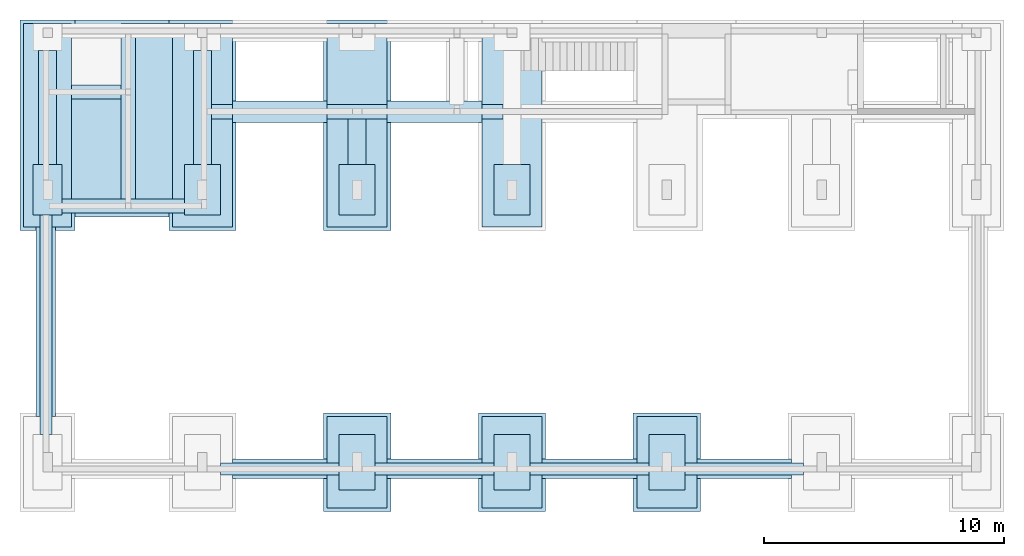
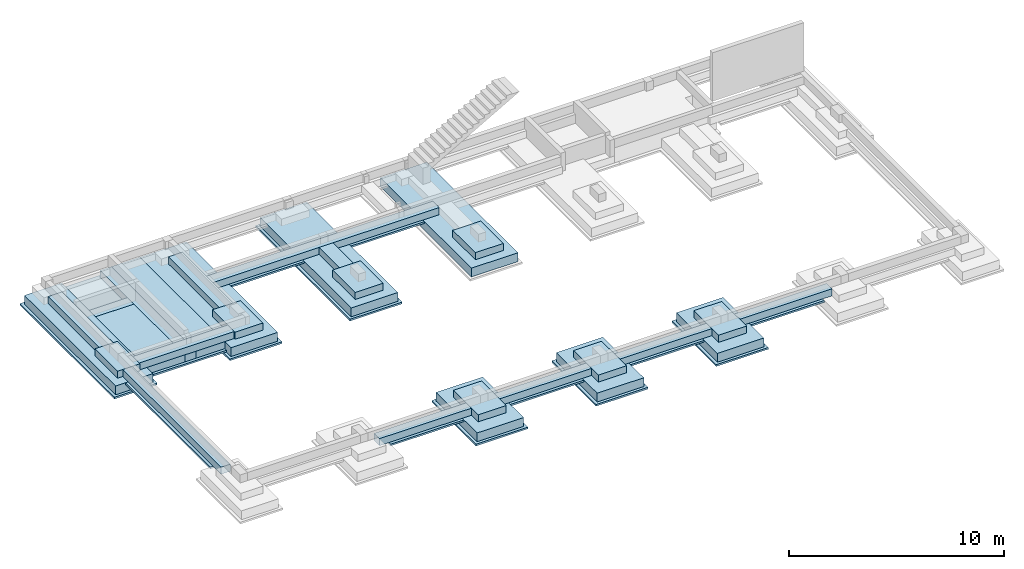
# One storey, part 2 of 6: 42 slabs.
"""IFC2X3 building model written with IfcOpenShell, lengths in centimetres."""

from ifc_helpers import new_model, entity, si_unit, converted_unit, derived_unit, direction, frame, frame_2d, origin, origin_2d_with_axis, place, context, subcontext, project, spatial, rectangle, extrude, material, layer, layer_set, layer_usage, type_object, element, save


model = new_model("IFC2X3")

# Units and contexts
model_context = context("Model", 3, precision=0.001, world=origin(), true_north=direction((6.12303176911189e-17, 1.0)))
body_context = subcontext(model_context, "Body", "Model", "MODEL_VIEW")
ifc_project = project(units=[si_unit("LENGTHUNIT", "METRE", prefix="CENTI"), si_unit("AREAUNIT", "SQUARE_METRE"), si_unit("VOLUMEUNIT", "CUBIC_METRE"), converted_unit("PLANEANGLEUNIT", "DEGREE", entity("IfcRatioMeasure", 0.0174532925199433), si_unit("PLANEANGLEUNIT", "RADIAN"), dimensions=[0, 0, 0, 0, 0, 0, 0]), si_unit("MASSUNIT", "GRAM", prefix="KILO"), derived_unit("MASSDENSITYUNIT", [(si_unit("MASSUNIT", "GRAM", prefix="KILO"), 1), (si_unit("LENGTHUNIT", "METRE"), -3)]), derived_unit("MOMENTOFINERTIAUNIT", [(si_unit("LENGTHUNIT", "METRE"), 4)]), si_unit("TIMEUNIT", "SECOND"), si_unit("FREQUENCYUNIT", "HERTZ"), si_unit("THERMODYNAMICTEMPERATUREUNIT", "DEGREE_CELSIUS"), derived_unit("THERMALTRANSMITTANCEUNIT", [(si_unit("MASSUNIT", "GRAM", prefix="KILO"), 1), (si_unit("THERMODYNAMICTEMPERATUREUNIT", "KELVIN"), -1), (si_unit("TIMEUNIT", "SECOND"), -3)]), derived_unit("VOLUMETRICFLOWRATEUNIT", [(si_unit("LENGTHUNIT", "METRE"), 3), (si_unit("TIMEUNIT", "SECOND"), -1)]), si_unit("ELECTRICCURRENTUNIT", "AMPERE"), si_unit("ELECTRICVOLTAGEUNIT", "VOLT"), si_unit("POWERUNIT", "WATT"), si_unit("FORCEUNIT", "NEWTON", prefix="KILO"), si_unit("ILLUMINANCEUNIT", "LUX"), si_unit("LUMINOUSFLUXUNIT", "LUMEN"), si_unit("LUMINOUSINTENSITYUNIT", "CANDELA"), derived_unit("USERDEFINED", [(si_unit("MASSUNIT", "GRAM", prefix="KILO"), -1), (si_unit("LENGTHUNIT", "METRE"), -2), (si_unit("TIMEUNIT", "SECOND"), 3), (si_unit("LUMINOUSFLUXUNIT", "LUMEN"), 1)]), derived_unit("LINEARVELOCITYUNIT", [(si_unit("LENGTHUNIT", "METRE"), 1), (si_unit("TIMEUNIT", "SECOND"), -1)]), si_unit("PRESSUREUNIT", "PASCAL"), derived_unit("USERDEFINED", [(si_unit("LENGTHUNIT", "METRE"), -2), (si_unit("MASSUNIT", "GRAM", prefix="KILO"), 1), (si_unit("TIMEUNIT", "SECOND"), -2)]), derived_unit("LINEARFORCEUNIT", [(si_unit("MASSUNIT", "GRAM", prefix="KILO"), 1), (si_unit("LENGTHUNIT", "METRE"), 1), (si_unit("TIMEUNIT", "SECOND"), -2), (si_unit("LENGTHUNIT", "METRE"), -1)]), derived_unit("PLANARFORCEUNIT", [(si_unit("MASSUNIT", "GRAM", prefix="KILO"), 1), (si_unit("LENGTHUNIT", "METRE"), 1), (si_unit("TIMEUNIT", "SECOND"), -2), (si_unit("LENGTHUNIT", "METRE"), -2)])], contexts=[model_context])

# Site, building, storey
site_placement = place(None, origin())
site = spatial("IfcSite", under=ifc_project, at=site_placement, Name="Default", CompositionType="ELEMENT")
building_placement = place(site_placement, origin())
building = spatial("IfcBuilding", under=site, at=building_placement, CompositionType="ELEMENT")
storey_placement = place(building_placement, frame((0.0, 0.0, -115.0)))
storey = spatial("IfcBuildingStorey", under=building, at=storey_placement, Name="Poziom Fundament -1,15", CompositionType="ELEMENT", Elevation=-115.0)

# Slabs
ifc_material_1 = material(Name="_Beton, C25/30")
ifc_layer_1 = layer(ifc_material_1, 50.0)
ifc_layer_set_1 = layer_set([ifc_layer_1], Name="Strop:SF 250 x 847,5 x 50")
ifc_layer_usage_1 = layer_usage(ifc_layer_set_1, "AXIS3", "POSITIVE", 0.0)
slab_type_1 = type_object("IfcSlabType", Name="Strop:SF 250 x 847,5 x 50", PredefinedType="FLOOR", material=ifc_layer_set_1)
slab_1_placement = place(storey_placement, origin())
element("IfcSlab", 1, at=slab_1_placement, inside=storey, type_object=slab_type_1, material=ifc_layer_usage_1, Name="Strop:SF 250 x 847,5 x 50", ObjectType="Strop:SF 250 x 847,5 x 50", PredefinedType="FLOOR", context=body_context, shape_type="SweptSolid", body=[
    extrude(rectangle(XDim=847.500000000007, YDim=250.00004770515, at=origin_2d_with_axis()), frame((-979.265085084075, 1698.8774502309, 0.0), z_axis=(0.0, 0.0, -1.0), x_axis=(0.0, 1.0, 0.0)), (0.0, 0.0, 1.0), 50.0),
])
ifc_layer_usage_2 = layer_usage(ifc_layer_set_1, "AXIS3", "POSITIVE", 0.0)
slab_type_2 = type_object("IfcSlabType", Name="Strop:SF 250 x 847,5 x 50", PredefinedType="FLOOR", material=ifc_layer_set_1)
slab_2_placement = place(storey_placement, origin())
element("IfcSlab", 2, at=slab_2_placement, inside=storey, type_object=slab_type_2, material=ifc_layer_usage_2, Name="Strop:SF 250 x 847,5 x 50", ObjectType="Strop:SF 250 x 847,5 x 50", PredefinedType="FLOOR", context=body_context, shape_type="SweptSolid", body=[
    extrude(rectangle(XDim=847.500000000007, YDim=250.00004770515, at=origin_2d_with_axis()), frame((-1624.26496505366, 1698.87745023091, 0.0), z_axis=(0.0, 0.0, -1.0), x_axis=(0.0, 1.0, 0.0)), (0.0, 0.0, 1.0), 50.0),
])
ifc_layer_usage_3 = layer_usage(ifc_layer_set_1, "AXIS3", "POSITIVE", 0.0)
slab_type_3 = type_object("IfcSlabType", Name="Strop:SF 250 x 847,5 x 50", PredefinedType="FLOOR", material=ifc_layer_set_1)
slab_3_placement = place(storey_placement, origin())
element("IfcSlab", 3, at=slab_3_placement, inside=storey, type_object=slab_type_3, material=ifc_layer_usage_3, Name="Strop:SF 250 x 847,5 x 50", ObjectType="Strop:SF 250 x 847,5 x 50", PredefinedType="FLOOR", context=body_context, shape_type="SweptSolid", body=[
    extrude(rectangle(XDim=847.500000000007, YDim=250.00004770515, at=origin_2d_with_axis()), frame((-2269.26508503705, 1698.87745023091, 0.0), z_axis=(0.0, 0.0, -1.0), x_axis=(0.0, 1.0, 0.0)), (0.0, 0.0, 1.0), 50.0),
])
ifc_layer_2 = layer(ifc_material_1, 50.0)
ifc_layer_set_2 = layer_set([ifc_layer_2], Name="Strop:SF 200 x 847,5 x 50 cm")
ifc_layer_usage_4 = layer_usage(ifc_layer_set_2, "AXIS3", "POSITIVE", 0.0)
slab_type_4 = type_object("IfcSlabType", Name="Strop:SF 200 x 847,5 x 50 cm", PredefinedType="FLOOR", material=ifc_layer_set_2)
slab_4_placement = place(storey_placement, origin())
element("IfcSlab", 4, at=slab_4_placement, inside=storey, type_object=slab_type_4, material=ifc_layer_usage_4, Name="Strop:SF 200 x 847,5 x 50 cm", ObjectType="Strop:SF 200 x 847,5 x 50 cm", PredefinedType="FLOOR", context=body_context, shape_type="SweptSolid", body=[
    extrude(rectangle(XDim=847.500000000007, YDim=199.999999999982, at=origin_2d_with_axis()), frame((-2914.2656506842, 1698.87745023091, 0.0), z_axis=(0.0, 0.0, -1.0), x_axis=(0.0, 1.0, 0.0)), (0.0, 0.0, 1.0), 50.0),
])
ifc_layer_3 = layer(ifc_material_1, 50.0)
ifc_layer_set_3 = layer_set([ifc_layer_3], Name="Strop:SF 250 x 380 x 50 cm")
ifc_layer_usage_5 = layer_usage(ifc_layer_set_3, "AXIS3", "POSITIVE", 0.0)
slab_type_5 = type_object("IfcSlabType", Name="Strop:SF 250 x 380 x 50 cm", PredefinedType="FLOOR", material=ifc_layer_set_3)
slab_5_placement = place(storey_placement, origin())
element("IfcSlab", 5, at=slab_5_placement, inside=storey, type_object=slab_type_5, material=ifc_layer_usage_5, Name="Strop:SF 250 x 380 x 50 cm", ObjectType="Strop:SF 250 x 380 x 50 cm", PredefinedType="FLOOR", context=body_context, shape_type="SweptSolid", body=[
    extrude(rectangle(XDim=380.000015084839, YDim=250.00004770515, at=origin_2d_with_axis()), frame((-334.264965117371, 295.127457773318, 0.0), z_axis=(0.0, 0.0, -1.0), x_axis=(0.0, 1.0, 0.0)), (0.0, 0.0, 1.0), 50.0),
])
ifc_layer_usage_6 = layer_usage(ifc_layer_set_3, "AXIS3", "POSITIVE", 0.0)
slab_type_6 = type_object("IfcSlabType", Name="Strop:SF 250 x 380 x 50 cm", PredefinedType="FLOOR", material=ifc_layer_set_3)
slab_6_placement = place(storey_placement, origin())
element("IfcSlab", 6, at=slab_6_placement, inside=storey, type_object=slab_type_6, material=ifc_layer_usage_6, Name="Strop:SF 250 x 380 x 50 cm", ObjectType="Strop:SF 250 x 380 x 50 cm", PredefinedType="FLOOR", context=body_context, shape_type="SweptSolid", body=[
    extrude(rectangle(XDim=380.000015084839, YDim=250.00004770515, at=origin_2d_with_axis()), frame((-979.264961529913, 295.12745777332, 0.0), z_axis=(0.0, 0.0, -1.0), x_axis=(0.0, 1.0, 0.0)), (0.0, 0.0, 1.0), 50.0),
])
ifc_layer_4 = layer(ifc_material_1, 40.0)
ifc_layer_set_4 = layer_set([ifc_layer_4], Name="Strop:SF 150 x 230 x 40 cm")
ifc_layer_usage_7 = layer_usage(ifc_layer_set_4, "AXIS3", "POSITIVE", 0.0)
slab_type_7 = type_object("IfcSlabType", Name="Strop:SF 150 x 230 x 40 cm", PredefinedType="FLOOR", material=ifc_layer_set_4)
slab_7_placement = place(storey_placement, origin())
element("IfcSlab", 7, at=slab_7_placement, inside=storey, type_object=slab_type_7, material=ifc_layer_usage_7, Name="Strop:SF 150 x 230 x 40 cm", ObjectType="Strop:SF 150 x 230 x 40 cm", PredefinedType="FLOOR", context=body_context, shape_type="SweptSolid", body=[
    extrude(rectangle(XDim=229.999999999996, YDim=150.000000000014, at=origin_2d_with_axis()), frame((-334.264988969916, 295.12743139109, 40.0), z_axis=(0.0, 0.0, -1.0), x_axis=(0.0, 1.0, 0.0)), (0.0, 0.0, 1.0), 40.0),
])
ifc_layer_usage_8 = layer_usage(ifc_layer_set_4, "AXIS3", "POSITIVE", 0.0)
slab_type_8 = type_object("IfcSlabType", Name="Strop:SF 150 x 230 x 40 cm", PredefinedType="FLOOR", material=ifc_layer_set_4)
slab_8_placement = place(storey_placement, origin())
element("IfcSlab", 8, at=slab_8_placement, inside=storey, type_object=slab_type_8, material=ifc_layer_usage_8, Name="Strop:SF 150 x 230 x 40 cm", ObjectType="Strop:SF 150 x 230 x 40 cm", PredefinedType="FLOOR", context=body_context, shape_type="SweptSolid", body=[
    extrude(rectangle(XDim=229.999999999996, YDim=150.000000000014, at=origin_2d_with_axis()), frame((-979.264985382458, 295.127431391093, 40.0), z_axis=(0.0, 0.0, -1.0), x_axis=(0.0, 1.0, 0.0)), (0.0, 0.0, 1.0), 40.0),
])
ifc_layer_usage_9 = layer_usage(ifc_layer_set_4, "AXIS3", "POSITIVE", 0.0)
slab_type_9 = type_object("IfcSlabType", Name="Strop:SF 150 x 230 x 40 cm", PredefinedType="FLOOR", material=ifc_layer_set_4)
slab_9_placement = place(storey_placement, origin())
element("IfcSlab", 9, at=slab_9_placement, inside=storey, type_object=slab_type_9, material=ifc_layer_usage_9, Name="Strop:SF 150 x 230 x 40 cm", ObjectType="Strop:SF 150 x 230 x 40 cm", PredefinedType="FLOOR", context=body_context, shape_type="SweptSolid", body=[
    extrude(rectangle(XDim=229.999999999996, YDim=150.000000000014, at=origin_2d_with_axis()), frame((-1624.26498896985, 295.127431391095, 40.0), z_axis=(0.0, 0.0, -1.0), x_axis=(0.0, 1.0, 0.0)), (0.0, 0.0, 1.0), 40.0),
])
ifc_layer_usage_10 = layer_usage(ifc_layer_set_3, "AXIS3", "POSITIVE", 0.0)
slab_type_10 = type_object("IfcSlabType", Name="Strop:SF 250 x 380 x 50 cm", PredefinedType="FLOOR", material=ifc_layer_set_3)
slab_10_placement = place(storey_placement, origin())
element("IfcSlab", 10, at=slab_10_placement, inside=storey, type_object=slab_type_10, material=ifc_layer_usage_10, Name="Strop:SF 250 x 380 x 50 cm", ObjectType="Strop:SF 250 x 380 x 50 cm", PredefinedType="FLOOR", context=body_context, shape_type="SweptSolid", body=[
    extrude(rectangle(XDim=380.000015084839, YDim=250.00004770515, at=origin_2d_with_axis()), frame((-1624.26496511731, 295.127457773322, 0.0), z_axis=(0.0, 0.0, -1.0), x_axis=(0.0, 1.0, 0.0)), (0.0, 0.0, 1.0), 50.0),
])
ifc_layer_5 = layer(ifc_material_1, 40.0)
ifc_layer_set_5 = layer_set([ifc_layer_5], Name="Strop:SF 150 x 210 x 40 cm")
ifc_layer_usage_11 = layer_usage(ifc_layer_set_5, "AXIS3", "POSITIVE", 0.0)
slab_type_11 = type_object("IfcSlabType", Name="Strop:SF 150 x 210 x 40 cm", PredefinedType="FLOOR", material=ifc_layer_set_5)
slab_11_placement = place(storey_placement, origin())
element("IfcSlab", 11, at=slab_11_placement, inside=storey, type_object=slab_type_11, material=ifc_layer_usage_11, Name="Strop:SF 150 x 210 x 40 cm", ObjectType="Strop:SF 150 x 210 x 40 cm", PredefinedType="FLOOR", context=body_context, shape_type="SweptSolid", body=[
    extrude(rectangle(XDim=209.999290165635, YDim=150.000000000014, at=origin_2d_with_axis()), frame((-1624.26498896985, 1430.12709542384, 40.0), z_axis=(0.0, 0.0, -1.0), x_axis=(0.0, 1.0, 0.0)), (0.0, 0.0, 1.0), 40.0),
])
ifc_layer_usage_12 = layer_usage(ifc_layer_set_5, "AXIS3", "POSITIVE", 0.0)
slab_type_12 = type_object("IfcSlabType", Name="Strop:SF 150 x 210 x 40 cm", PredefinedType="FLOOR", material=ifc_layer_set_5)
slab_12_placement = place(storey_placement, origin())
element("IfcSlab", 12, at=slab_12_placement, inside=storey, type_object=slab_type_12, material=ifc_layer_usage_12, Name="Strop:SF 150 x 210 x 40 cm", ObjectType="Strop:SF 150 x 210 x 40 cm", PredefinedType="FLOOR", context=body_context, shape_type="SweptSolid", body=[
    extrude(rectangle(XDim=209.999290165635, YDim=150.000000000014, at=origin_2d_with_axis()), frame((-979.264861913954, 1430.12709542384, 40.0), z_axis=(0.0, 0.0, -1.0), x_axis=(0.0, 1.0, 0.0)), (0.0, 0.0, 1.0), 40.0),
])
ifc_layer_usage_13 = layer_usage(ifc_layer_set_5, "AXIS3", "POSITIVE", 0.0)
slab_type_13 = type_object("IfcSlabType", Name="Strop:SF 150 x 210 x 40 cm", PredefinedType="FLOOR", material=ifc_layer_set_5)
slab_13_placement = place(storey_placement, origin())
element("IfcSlab", 13, at=slab_13_placement, inside=storey, type_object=slab_type_13, material=ifc_layer_usage_13, Name="Strop:SF 150 x 210 x 40 cm", ObjectType="Strop:SF 150 x 210 x 40 cm", PredefinedType="FLOOR", context=body_context, shape_type="SweptSolid", body=[
    extrude(rectangle(XDim=209.999290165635, YDim=150.000000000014, at=origin_2d_with_axis()), frame((-2269.26498896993, 1430.12709542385, 40.0), z_axis=(0.0, 0.0, -1.0), x_axis=(0.0, 1.0, 0.0)), (0.0, 0.0, 1.0), 40.0),
])
ifc_layer_6 = layer(ifc_material_1, 40.0)
ifc_layer_set_6 = layer_set([ifc_layer_6], Name="Strop:SF 120 x 210 x 40 cm")
ifc_layer_usage_14 = layer_usage(ifc_layer_set_6, "AXIS3", "POSITIVE", 0.0)
slab_type_14 = type_object("IfcSlabType", Name="Strop:SF 120 x 210 x 40 cm", PredefinedType="FLOOR", material=ifc_layer_set_6)
slab_14_placement = place(storey_placement, origin())
element("IfcSlab", 14, at=slab_14_placement, inside=storey, type_object=slab_type_14, material=ifc_layer_usage_14, Name="Strop:SF 120 x 210 x 40 cm", ObjectType="Strop:SF 120 x 210 x 40 cm", PredefinedType="FLOOR", context=body_context, shape_type="SweptSolid", body=[
    extrude(rectangle(XDim=209.999290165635, YDim=120.0, at=frame_2d((0.0, -2.16715534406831e-13), x_axis=(1.0, 0.0))), frame((-2914.26504440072, 1430.12709542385, 40.0), z_axis=(0.0, 0.0, -1.0), x_axis=(0.0, 1.0, 0.0)), (0.0, 0.0, 1.0), 40.0),
])
ifc_layer_7 = layer(ifc_material_1, 40.0)
ifc_layer_set_7 = layer_set([ifc_layer_7], Name="Strop:Ława fundamentowa gr. 40cm")
ifc_layer_usage_15 = layer_usage(ifc_layer_set_7, "AXIS3", "POSITIVE", 0.0)
slab_type_15 = type_object("IfcSlabType", Name="Strop:Ława fundamentowa gr. 40cm", PredefinedType="FLOOR", material=ifc_layer_set_7)
slab_15_placement = place(storey_placement, origin())
element("IfcSlab", 15, at=slab_15_placement, inside=storey, type_object=slab_type_15, material=ifc_layer_usage_15, Name="Strop:Ława fundamentowa gr. 40cm", ObjectType="Strop:Ława fundamentowa gr. 40cm", PredefinedType="FLOOR", context=body_context, shape_type="SweptSolid", body=[
    extrude(rectangle(XDim=60.0000206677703, YDim=1215.0, at=frame_2d((8.65085780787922e-13, 1.13686837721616e-13), x_axis=(1.0, 0.0))), frame((-1624.26510551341, 1755.62742309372, 40.0), z_axis=(0.0, 0.0, -1.0), x_axis=(0.0, 1.0, 0.0)), (0.0, 0.0, 1.0), 40.0),
])
ifc_layer_usage_16 = layer_usage(ifc_layer_set_7, "AXIS3", "POSITIVE", 0.0)
slab_type_16 = type_object("IfcSlabType", Name="Strop:Ława fundamentowa gr. 40cm", PredefinedType="FLOOR", material=ifc_layer_set_7)
slab_16_placement = place(storey_placement, origin())
element("IfcSlab", 16, at=slab_16_placement, inside=storey, type_object=slab_type_16, material=ifc_layer_usage_16, Name="Strop:Ława fundamentowa gr. 40cm", ObjectType="Strop:Ława fundamentowa gr. 40cm", PredefinedType="FLOOR", context=body_context, shape_type="SweptSolid", body=[
    extrude(rectangle(XDim=190.500690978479, YDim=75.0000000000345, at=frame_2d((-1.06581410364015e-13, 1.10134124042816e-13), x_axis=(1.0, 0.0))), frame((-1624.2651125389, 1630.3770859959, 40.0), z_axis=(0.0, 0.0, -1.0), x_axis=(0.0, 1.0, 0.0)), (0.0, 0.0, 1.0), 40.0),
])
ifc_layer_usage_17 = layer_usage(ifc_layer_set_7, "AXIS3", "POSITIVE", 0.0)
slab_type_17 = type_object("IfcSlabType", Name="Strop:Ława fundamentowa gr. 40cm", PredefinedType="FLOOR", material=ifc_layer_set_7)
slab_17_placement = place(storey_placement, origin())
element("IfcSlab", 17, at=slab_17_placement, inside=storey, type_object=slab_type_17, material=ifc_layer_usage_17, Name="Strop:Ława fundamentowa gr. 40cm", ObjectType="Strop:Ława fundamentowa gr. 40cm", PredefinedType="FLOOR", context=body_context, shape_type="SweptSolid", body=[
    extrude(rectangle(XDim=475.000691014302, YDim=74.9999999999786, at=frame_2d((2.1316282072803e-13, 2.16715534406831e-13), x_axis=(1.0, 0.0))), frame((-2269.26510895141, 1772.62708601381, 40.0), z_axis=(0.0, 0.0, -1.0), x_axis=(0.0, 1.0, 0.0)), (0.0, 0.0, 1.0), 40.0),
])
ifc_layer_usage_18 = layer_usage(ifc_layer_set_7, "AXIS3", "POSITIVE", 0.0)
slab_type_18 = type_object("IfcSlabType", Name="Strop:Ława fundamentowa gr. 40cm", PredefinedType="FLOOR", material=ifc_layer_set_7)
slab_18_placement = place(storey_placement, origin())
element("IfcSlab", 18, at=slab_18_placement, inside=storey, type_object=slab_type_18, material=ifc_layer_usage_18, Name="Strop:Ława fundamentowa gr. 40cm", ObjectType="Strop:Ława fundamentowa gr. 40cm", PredefinedType="FLOOR", context=body_context, shape_type="SweptSolid", body=[
    extrude(rectangle(XDim=915.000018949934, YDim=50.0000000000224, at=origin_2d_with_axis()), frame((-2921.76498789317, 867.627440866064, 40.0), z_axis=(0.0, 0.0, -1.0), x_axis=(0.0, 1.0, 0.0)), (0.0, 0.0, 1.0), 40.0),
])
ifc_layer_usage_19 = layer_usage(ifc_layer_set_7, "AXIS3", "POSITIVE", 0.0)
slab_type_19 = type_object("IfcSlabType", Name="Strop:Ława fundamentowa gr. 40cm", PredefinedType="FLOOR", material=ifc_layer_set_7)
slab_19_placement = place(storey_placement, origin())
element("IfcSlab", 19, at=slab_19_placement, inside=storey, type_object=slab_type_19, material=ifc_layer_usage_19, Name="Strop:Ława fundamentowa gr. 40cm", ObjectType="Strop:Ława fundamentowa gr. 40cm", PredefinedType="FLOOR", context=body_context, shape_type="SweptSolid", body=[
    extrude(rectangle(XDim=50.0000000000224, YDim=495.000000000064, at=frame_2d((1.24344978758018e-14, 0.0), x_axis=(1.0, 0.0))), frame((-1946.76498896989, 267.627452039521, 40.0), z_axis=(0.0, 0.0, -1.0), x_axis=(0.0, 1.0, 0.0)), (0.0, 0.0, 1.0), 40.0),
])
ifc_layer_usage_20 = layer_usage(ifc_layer_set_7, "AXIS3", "POSITIVE", 0.0)
slab_type_20 = type_object("IfcSlabType", Name="Strop:Ława fundamentowa gr. 40cm", PredefinedType="FLOOR", material=ifc_layer_set_7)
slab_20_placement = place(storey_placement, origin())
element("IfcSlab", 20, at=slab_20_placement, inside=storey, type_object=slab_type_20, material=ifc_layer_usage_20, Name="Strop:Ława fundamentowa gr. 40cm", ObjectType="Strop:Ława fundamentowa gr. 40cm", PredefinedType="FLOOR", context=body_context, shape_type="SweptSolid", body=[
    extrude(rectangle(XDim=50.0000000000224, YDim=495.000000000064, at=frame_2d((1.24344978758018e-14, 0.0), x_axis=(1.0, 0.0))), frame((-1301.76498896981, 267.627452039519, 40.0), z_axis=(0.0, 0.0, -1.0), x_axis=(0.0, 1.0, 0.0)), (0.0, 0.0, 1.0), 40.0),
])
ifc_layer_usage_21 = layer_usage(ifc_layer_set_7, "AXIS3", "POSITIVE", 0.0)
slab_type_21 = type_object("IfcSlabType", Name="Strop:Ława fundamentowa gr. 40cm", PredefinedType="FLOOR", material=ifc_layer_set_7)
slab_21_placement = place(storey_placement, origin())
element("IfcSlab", 21, at=slab_21_placement, inside=storey, type_object=slab_type_21, material=ifc_layer_usage_21, Name="Strop:Ława fundamentowa gr. 40cm", ObjectType="Strop:Ława fundamentowa gr. 40cm", PredefinedType="FLOOR", context=body_context, shape_type="SweptSolid", body=[
    extrude(rectangle(XDim=50.0000000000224, YDim=495.000000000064, at=frame_2d((1.24344978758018e-14, -5.6843418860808e-14), x_axis=(1.0, 0.0))), frame((-656.764985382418, 267.627452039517, 40.0), z_axis=(0.0, 0.0, -1.0), x_axis=(0.0, 1.0, 0.0)), (0.0, 0.0, 1.0), 40.0),
])
ifc_layer_usage_22 = layer_usage(ifc_layer_set_7, "AXIS3", "POSITIVE", 0.0)
slab_type_22 = type_object("IfcSlabType", Name="Strop:Ława fundamentowa gr. 40cm", PredefinedType="FLOOR", material=ifc_layer_set_7)
slab_22_placement = place(storey_placement, origin())
element("IfcSlab", 22, at=slab_22_placement, inside=storey, type_object=slab_type_22, material=ifc_layer_usage_22, Name="Strop:Ława fundamentowa gr. 40cm", ObjectType="Strop:Ława fundamentowa gr. 40cm", PredefinedType="FLOOR", context=body_context, shape_type="SweptSolid", body=[
    extrude(rectangle(XDim=50.0000000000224, YDim=495.000000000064, at=frame_2d((1.4210854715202e-14, 0.0), x_axis=(1.0, 0.0))), frame((-11.7649889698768, 267.627452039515, 40.0), z_axis=(0.0, 0.0, -1.0), x_axis=(0.0, 1.0, 0.0)), (0.0, 0.0, 1.0), 40.0),
])
ifc_layer_usage_23 = layer_usage(ifc_layer_set_7, "AXIS3", "POSITIVE", 0.0)
slab_type_23 = type_object("IfcSlabType", Name="Strop:Ława fundamentowa gr. 40cm", PredefinedType="FLOOR", material=ifc_layer_set_7)
slab_23_placement = place(storey_placement, origin())
element("IfcSlab", 23, at=slab_23_placement, inside=storey, type_object=slab_type_23, material=ifc_layer_usage_23, Name="Strop:Ława fundamentowa gr. 40cm", ObjectType="Strop:Ława fundamentowa gr. 40cm", PredefinedType="FLOOR", context=body_context, shape_type="SweptSolid", body=[
    extrude(rectangle(XDim=59.9999998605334, YDim=510.000055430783, at=origin_2d_with_axis()), frame((-2599.26501668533, 1362.52745213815, 40.0), z_axis=(0.0, 0.0, -1.0), x_axis=(0.0, 1.0, 0.0)), (0.0, 0.0, 1.0), 40.0),
])
ifc_layer_usage_24 = layer_usage(ifc_layer_set_7, "AXIS3", "POSITIVE", 0.0)
slab_type_24 = type_object("IfcSlabType", Name="Strop:Ława fundamentowa gr. 40cm", PredefinedType="FLOOR", material=ifc_layer_set_7)
slab_24_placement = place(storey_placement, origin())
element("IfcSlab", 24, at=slab_24_placement, inside=storey, type_object=slab_type_24, material=ifc_layer_usage_24, Name="Strop:Ława fundamentowa gr. 40cm", ObjectType="Strop:Ława fundamentowa gr. 40cm", PredefinedType="FLOOR", context=body_context, shape_type="SweptSolid", body=[
    extrude(rectangle(XDim=790.09999802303, YDim=59.9999998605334, at=frame_2d((1.98951966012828e-13, 2.16715534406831e-13), x_axis=(1.0, 0.0))), frame((-2578.26510769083, 1727.5774512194, 0.0), z_axis=(0.0, 0.0, -1.0), x_axis=(0.0, 1.0, 0.0)), (0.0, 0.0, 1.0), 40.0),
])
ifc_layer_usage_25 = layer_usage(ifc_layer_set_7, "AXIS3", "POSITIVE", 0.0)
slab_type_25 = type_object("IfcSlabType", Name="Strop:Ława fundamentowa gr. 40cm", PredefinedType="FLOOR", material=ifc_layer_set_7)
slab_25_placement = place(storey_placement, origin())
element("IfcSlab", 25, at=slab_25_placement, inside=storey, type_object=slab_type_25, material=ifc_layer_usage_25, Name="Strop:Ława fundamentowa gr. 40cm", ObjectType="Strop:Ława fundamentowa gr. 40cm", PredefinedType="FLOOR", context=body_context, shape_type="SweptSolid", body=[
    extrude(rectangle(XDim=59.9999998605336, YDim=206.00054296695, at=frame_2d((1.08357767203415e-13, 2.20268248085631e-13), x_axis=(1.0, 0.0))), frame((-2711.26537920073, 1837.52745214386, 0.0), z_axis=(0.0, 0.0, -1.0), x_axis=(0.0, 1.0, 0.0)), (0.0, 0.0, 1.0), 40.0),
])
ifc_layer_usage_26 = layer_usage(ifc_layer_set_7, "AXIS3", "POSITIVE", 0.0)
slab_type_26 = type_object("IfcSlabType", Name="Strop:Ława fundamentowa gr. 40cm", PredefinedType="FLOOR", material=ifc_layer_set_7)
slab_26_placement = place(storey_placement, origin())
element("IfcSlab", 26, at=slab_26_placement, inside=storey, type_object=slab_type_26, material=ifc_layer_usage_26, Name="Strop:Ława fundamentowa gr. 40cm", ObjectType="Strop:Ława fundamentowa gr. 40cm", PredefinedType="FLOOR", context=body_context, shape_type="SweptSolid", body=[
    extrude(rectangle(XDim=475.000691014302, YDim=74.9987288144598, at=frame_2d((2.27373675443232e-13, 0.0), x_axis=(1.0, 0.0))), frame((-2914.26562137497, 1772.62708601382, 40.0), z_axis=(0.0, 0.0, -1.0), x_axis=(0.0, 1.0, 0.0)), (0.0, 0.0, 1.0), 40.0),
])
ifc_material_2 = material(Name="Beton zacierany")
ifc_layer_8 = layer(ifc_material_2, 10.0)
ifc_layer_set_8 = layer_set([ifc_layer_8], Name="Strop:Chudy beton gr. 10cm")
ifc_layer_usage_27 = layer_usage(ifc_layer_set_8, "AXIS3", "POSITIVE", 0.0)
slab_type_27 = type_object("IfcSlabType", Name="Strop:Chudy beton gr. 10cm", PredefinedType="FLOOR", material=ifc_layer_set_8)
slab_27_placement = place(storey_placement, origin())
element("IfcSlab", 27, at=slab_27_placement, inside=storey, type_object=slab_type_27, material=ifc_layer_usage_27, Name="Strop:Chudy beton gr. 10cm", ObjectType="Strop:Chudy beton gr. 10cm", PredefinedType="FLOOR", context=body_context, shape_type="SweptSolid", body=[
    extrude(rectangle(XDim=410.000015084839, YDim=280.00004770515, at=frame_2d((2.8421709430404e-14, 0.0), x_axis=(1.0, 0.0))), frame((-1624.26496511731, 295.127457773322, -50.0), z_axis=(0.0, 0.0, -1.0), x_axis=(0.0, 1.0, 0.0)), (0.0, 0.0, 1.0), 10.0),
])
ifc_layer_usage_28 = layer_usage(ifc_layer_set_8, "AXIS3", "POSITIVE", 0.0)
slab_type_28 = type_object("IfcSlabType", Name="Strop:Chudy beton gr. 10cm", PredefinedType="FLOOR", material=ifc_layer_set_8)
slab_28_placement = place(storey_placement, origin())
element("IfcSlab", 28, at=slab_28_placement, inside=storey, type_object=slab_type_28, material=ifc_layer_usage_28, Name="Strop:Chudy beton gr. 10cm", ObjectType="Strop:Chudy beton gr. 10cm", PredefinedType="FLOOR", context=body_context, shape_type="SweptSolid", body=[
    extrude(rectangle(XDim=410.000015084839, YDim=280.00004770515, at=frame_2d((2.8421709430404e-14, 0.0), x_axis=(1.0, 0.0))), frame((-979.264961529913, 295.12745777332, -50.0), z_axis=(0.0, 0.0, -1.0), x_axis=(0.0, 1.0, 0.0)), (0.0, 0.0, 1.0), 10.0),
])
ifc_layer_usage_29 = layer_usage(ifc_layer_set_8, "AXIS3", "POSITIVE", 0.0)
slab_type_29 = type_object("IfcSlabType", Name="Strop:Chudy beton gr. 10cm", PredefinedType="FLOOR", material=ifc_layer_set_8)
slab_29_placement = place(storey_placement, origin())
element("IfcSlab", 29, at=slab_29_placement, inside=storey, type_object=slab_type_29, material=ifc_layer_usage_29, Name="Strop:Chudy beton gr. 10cm", ObjectType="Strop:Chudy beton gr. 10cm", PredefinedType="FLOOR", context=body_context, shape_type="SweptSolid", body=[
    extrude(rectangle(XDim=410.000015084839, YDim=280.00004770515, at=frame_2d((2.8421709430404e-14, 0.0), x_axis=(1.0, 0.0))), frame((-334.264965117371, 295.127457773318, -50.0), z_axis=(0.0, 0.0, -1.0), x_axis=(0.0, 1.0, 0.0)), (0.0, 0.0, 1.0), 10.0),
])
ifc_layer_usage_30 = layer_usage(ifc_layer_set_8, "AXIS3", "POSITIVE", 0.0)
slab_type_30 = type_object("IfcSlabType", Name="Strop:Chudy beton gr. 10cm", PredefinedType="FLOOR", material=ifc_layer_set_8)
slab_30_placement = place(storey_placement, origin())
element("IfcSlab", 30, at=slab_30_placement, inside=storey, type_object=slab_type_30, material=ifc_layer_usage_30, Name="Strop:Chudy beton gr. 10cm", ObjectType="Strop:Chudy beton gr. 10cm", PredefinedType="FLOOR", context=body_context, shape_type="SweptSolid", body=[
    extrude(rectangle(XDim=877.499999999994, YDim=229.999999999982, at=frame_2d((2.27373675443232e-13, 0.0), x_axis=(1.0, 0.0))), frame((-2914.2656506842, 1698.8774502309, -50.0), z_axis=(0.0, 0.0, -1.0), x_axis=(0.0, 1.0, 0.0)), (0.0, 0.0, 1.0), 10.0),
])
ifc_layer_usage_31 = layer_usage(ifc_layer_set_8, "AXIS3", "POSITIVE", 0.0)
slab_type_31 = type_object("IfcSlabType", Name="Strop:Chudy beton gr. 10cm", PredefinedType="FLOOR", material=ifc_layer_set_8)
slab_31_placement = place(storey_placement, origin())
element("IfcSlab", 31, at=slab_31_placement, inside=storey, type_object=slab_type_31, material=ifc_layer_usage_31, Name="Strop:Chudy beton gr. 10cm", ObjectType="Strop:Chudy beton gr. 10cm", PredefinedType="FLOOR", context=body_context, shape_type="SweptSolid", body=[
    extrude(rectangle(XDim=877.500000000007, YDim=280.00004770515, at=origin_2d_with_axis()), frame((-2269.26508503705, 1698.87745023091, -50.0), z_axis=(0.0, 0.0, -1.0), x_axis=(0.0, 1.0, 0.0)), (0.0, 0.0, 1.0), 10.0),
])
ifc_layer_usage_32 = layer_usage(ifc_layer_set_8, "AXIS3", "POSITIVE", 0.0)
slab_type_32 = type_object("IfcSlabType", Name="Strop:Chudy beton gr. 10cm", PredefinedType="FLOOR", material=ifc_layer_set_8)
slab_32_placement = place(storey_placement, origin())
element("IfcSlab", 32, at=slab_32_placement, inside=storey, type_object=slab_type_32, material=ifc_layer_usage_32, Name="Strop:Chudy beton gr. 10cm", ObjectType="Strop:Chudy beton gr. 10cm", PredefinedType="FLOOR", context=body_context, shape_type="SweptSolid", body=[
    extrude(rectangle(XDim=877.500000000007, YDim=280.00004770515, at=origin_2d_with_axis()), frame((-1624.26496505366, 1698.87745023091, -50.0), z_axis=(0.0, 0.0, -1.0), x_axis=(0.0, 1.0, 0.0)), (0.0, 0.0, 1.0), 10.0),
])
ifc_layer_9 = layer(ifc_material_1, 40.0)
ifc_layer_set_9 = layer_set([ifc_layer_9], Name="Strop:Płyta fundamentowa gr. 40cm")
ifc_layer_usage_33 = layer_usage(ifc_layer_set_9, "AXIS3", "POSITIVE", 0.0)
slab_type_33 = type_object("IfcSlabType", Name="Strop:Płyta fundamentowa gr. 40cm", PredefinedType="FLOOR", material=ifc_layer_set_9)
slab_33_placement = place(storey_placement, origin())
element("IfcSlab", 33, at=slab_33_placement, inside=storey, type_object=slab_type_33, material=ifc_layer_usage_33, Name="Strop:Płyta fundamentowa gr. 40cm", ObjectType="Strop:Płyta fundamentowa gr. 40cm", PredefinedType="FLOOR", context=body_context, shape_type="SweptSolid", body=[
    extrude(rectangle(XDim=475.000000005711, YDim=206.000543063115, at=frame_2d((-2.1316282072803e-13, 2.1316282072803e-13), x_axis=(1.0, 0.0))), frame((-2711.26537915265, 1570.02745221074, 0.0), z_axis=(0.0, 0.0, -1.0), x_axis=(0.0, 1.0, 0.0)), (0.0, 0.0, 1.0), 40.0),
])
ifc_layer_usage_34 = layer_usage(ifc_layer_set_9, "AXIS3", "POSITIVE", 0.0)
slab_type_34 = type_object("IfcSlabType", Name="Strop:Płyta fundamentowa gr. 40cm", PredefinedType="FLOOR", material=ifc_layer_set_9)
slab_34_placement = place(storey_placement, origin())
element("IfcSlab", 34, at=slab_34_placement, inside=storey, type_object=slab_type_34, material=ifc_layer_usage_34, Name="Strop:Płyta fundamentowa gr. 40cm", ObjectType="Strop:Płyta fundamentowa gr. 40cm", PredefinedType="FLOOR", context=body_context, shape_type="SweptSolid", body=[
    extrude(rectangle(XDim=790.099998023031, YDim=153.999998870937, at=origin_2d_with_axis()), frame((-2471.26510832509, 1727.5774512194, 0.0), z_axis=(0.0, 0.0, -1.0), x_axis=(0.0, 1.0, 0.0)), (0.0, 0.0, 1.0), 40.0),
])
ifc_layer_usage_35 = layer_usage(ifc_layer_set_8, "AXIS3", "POSITIVE", 0.0)
slab_type_35 = type_object("IfcSlabType", Name="Strop:Chudy beton gr. 10cm", PredefinedType="FLOOR", material=ifc_layer_set_8)
slab_35_placement = place(storey_placement, origin())
element("IfcSlab", 35, at=slab_35_placement, inside=storey, type_object=slab_type_35, material=ifc_layer_usage_35, Name="Strop:Chudy beton gr. 10cm", ObjectType="Strop:Chudy beton gr. 10cm", PredefinedType="FLOOR", context=body_context, shape_type="SweptSolid", body=[
    extrude(rectangle(XDim=820.099998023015, YDim=420.0005417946, at=frame_2d((2.27373675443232e-13, -4.76063632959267e-12), x_axis=(1.0, 0.0))), frame((-2604.26537978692, 1727.57745121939, -40.0), z_axis=(0.0, 0.0, -1.0), x_axis=(0.0, 1.0, 0.0)), (0.0, 0.0, 1.0), 10.0),
])
ifc_layer_usage_36 = layer_usage(ifc_layer_set_8, "AXIS3", "POSITIVE", 0.0)
slab_type_36 = type_object("IfcSlabType", Name="Strop:Chudy beton gr. 10cm", PredefinedType="FLOOR", material=ifc_layer_set_8)
slab_36_placement = place(storey_placement, origin())
element("IfcSlab", 36, at=slab_36_placement, inside=storey, type_object=slab_type_36, material=ifc_layer_usage_36, Name="Strop:Chudy beton gr. 10cm", ObjectType="Strop:Chudy beton gr. 10cm", PredefinedType="FLOOR", context=body_context, shape_type="SweptSolid", body=[
    extrude(rectangle(XDim=89.9999998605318, YDim=395.000072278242, at=origin_2d_with_axis()), frame((-1946.76502504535, 1755.62743349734, 0.0), z_axis=(0.0, 0.0, -1.0), x_axis=(0.0, 1.0, 0.0)), (0.0, 0.0, 1.0), 10.0),
])
ifc_layer_usage_37 = layer_usage(ifc_layer_set_8, "AXIS3", "POSITIVE", 0.0)
slab_type_37 = type_object("IfcSlabType", Name="Strop:Chudy beton gr. 10cm", PredefinedType="FLOOR", material=ifc_layer_set_8)
slab_37_placement = place(storey_placement, origin())
element("IfcSlab", 37, at=slab_37_placement, inside=storey, type_object=slab_type_37, material=ifc_layer_usage_37, Name="Strop:Chudy beton gr. 10cm", ObjectType="Strop:Chudy beton gr. 10cm", PredefinedType="FLOOR", context=body_context, shape_type="SweptSolid", body=[
    extrude(rectangle(XDim=89.9999998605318, YDim=395.000072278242, at=origin_2d_with_axis()), frame((-1301.76490506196, 1755.62743349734, 0.0), z_axis=(0.0, 0.0, -1.0), x_axis=(0.0, 1.0, 0.0)), (0.0, 0.0, 1.0), 10.0),
])
ifc_layer_usage_38 = layer_usage(ifc_layer_set_8, "AXIS3", "POSITIVE", 0.0)
slab_type_38 = type_object("IfcSlabType", Name="Strop:Chudy beton gr. 10cm", PredefinedType="FLOOR", material=ifc_layer_set_8)
slab_38_placement = place(storey_placement, origin())
element("IfcSlab", 38, at=slab_38_placement, inside=storey, type_object=slab_type_38, material=ifc_layer_usage_38, Name="Strop:Chudy beton gr. 10cm", ObjectType="Strop:Chudy beton gr. 10cm", PredefinedType="FLOOR", context=body_context, shape_type="SweptSolid", body=[
    extrude(rectangle(XDim=80.0000000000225, YDim=790.000008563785, at=frame_2d((2.16715534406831e-13, 5.6843418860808e-14), x_axis=(1.0, 0.0))), frame((-2921.76463038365, 880.127445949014, 0.0), z_axis=(0.0, 0.0, -1.0), x_axis=(1.0, 0.0, 0.0)), (0.0, 0.0, 1.0), 10.0),
])
ifc_layer_usage_39 = layer_usage(ifc_layer_set_8, "AXIS3", "POSITIVE", 0.0)
slab_type_39 = type_object("IfcSlabType", Name="Strop:Chudy beton gr. 10cm", PredefinedType="FLOOR", material=ifc_layer_set_8)
slab_39_placement = place(storey_placement, origin())
element("IfcSlab", 39, at=slab_39_placement, inside=storey, type_object=slab_type_39, material=ifc_layer_usage_39, Name="Strop:Chudy beton gr. 10cm", ObjectType="Strop:Chudy beton gr. 10cm", PredefinedType="FLOOR", context=body_context, shape_type="SweptSolid", body=[
    extrude(rectangle(XDim=80.0000000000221, YDim=395.000000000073, at=frame_2d((-2.48689957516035e-14, 0.0), x_axis=(1.0, 0.0))), frame((-1946.76498896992, 267.627452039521, 0.0), z_axis=(0.0, 0.0, -1.0), x_axis=(0.0, 1.0, 0.0)), (0.0, 0.0, 1.0), 10.0),
])
ifc_layer_usage_40 = layer_usage(ifc_layer_set_8, "AXIS3", "POSITIVE", 0.0)
slab_type_40 = type_object("IfcSlabType", Name="Strop:Chudy beton gr. 10cm", PredefinedType="FLOOR", material=ifc_layer_set_8)
slab_40_placement = place(storey_placement, origin())
element("IfcSlab", 40, at=slab_40_placement, inside=storey, type_object=slab_type_40, material=ifc_layer_usage_40, Name="Strop:Chudy beton gr. 10cm", ObjectType="Strop:Chudy beton gr. 10cm", PredefinedType="FLOOR", context=body_context, shape_type="SweptSolid", body=[
    extrude(rectangle(XDim=80.0000000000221, YDim=395.000000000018, at=frame_2d((-2.48689957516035e-14, 0.0), x_axis=(1.0, 0.0))), frame((-1301.76498896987, 267.627452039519, 0.0), z_axis=(0.0, 0.0, -1.0), x_axis=(0.0, 1.0, 0.0)), (0.0, 0.0, 1.0), 10.0),
])
ifc_layer_usage_41 = layer_usage(ifc_layer_set_8, "AXIS3", "POSITIVE", 0.0)
slab_type_41 = type_object("IfcSlabType", Name="Strop:Chudy beton gr. 10cm", PredefinedType="FLOOR", material=ifc_layer_set_8)
slab_41_placement = place(storey_placement, origin())
element("IfcSlab", 41, at=slab_41_placement, inside=storey, type_object=slab_type_41, material=ifc_layer_usage_41, Name="Strop:Chudy beton gr. 10cm", ObjectType="Strop:Chudy beton gr. 10cm", PredefinedType="FLOOR", context=body_context, shape_type="SweptSolid", body=[
    extrude(rectangle(XDim=80.0000000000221, YDim=395.000000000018, at=frame_2d((-2.48689957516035e-14, 0.0), x_axis=(1.0, 0.0))), frame((-656.764937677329, 267.627452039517, 0.0), z_axis=(0.0, 0.0, -1.0), x_axis=(0.0, 1.0, 0.0)), (0.0, 0.0, 1.0), 10.0),
])
ifc_layer_usage_42 = layer_usage(ifc_layer_set_8, "AXIS3", "POSITIVE", 0.0)
slab_type_42 = type_object("IfcSlabType", Name="Strop:Chudy beton gr. 10cm", PredefinedType="FLOOR", material=ifc_layer_set_8)
slab_42_placement = place(storey_placement, origin())
element("IfcSlab", 42, at=slab_42_placement, inside=storey, type_object=slab_type_42, material=ifc_layer_usage_42, Name="Strop:Chudy beton gr. 10cm", ObjectType="Strop:Chudy beton gr. 10cm", PredefinedType="FLOOR", context=body_context, shape_type="SweptSolid", body=[
    extrude(rectangle(XDim=80.0000000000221, YDim=395.000000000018, at=frame_2d((-2.48689957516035e-14, 0.0), x_axis=(1.0, 0.0))), frame((-11.7649412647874, 267.627452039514, 0.0), z_axis=(0.0, 0.0, -1.0), x_axis=(0.0, 1.0, 0.0)), (0.0, 0.0, 1.0), 10.0),
])

save(model, "model.ifc")
